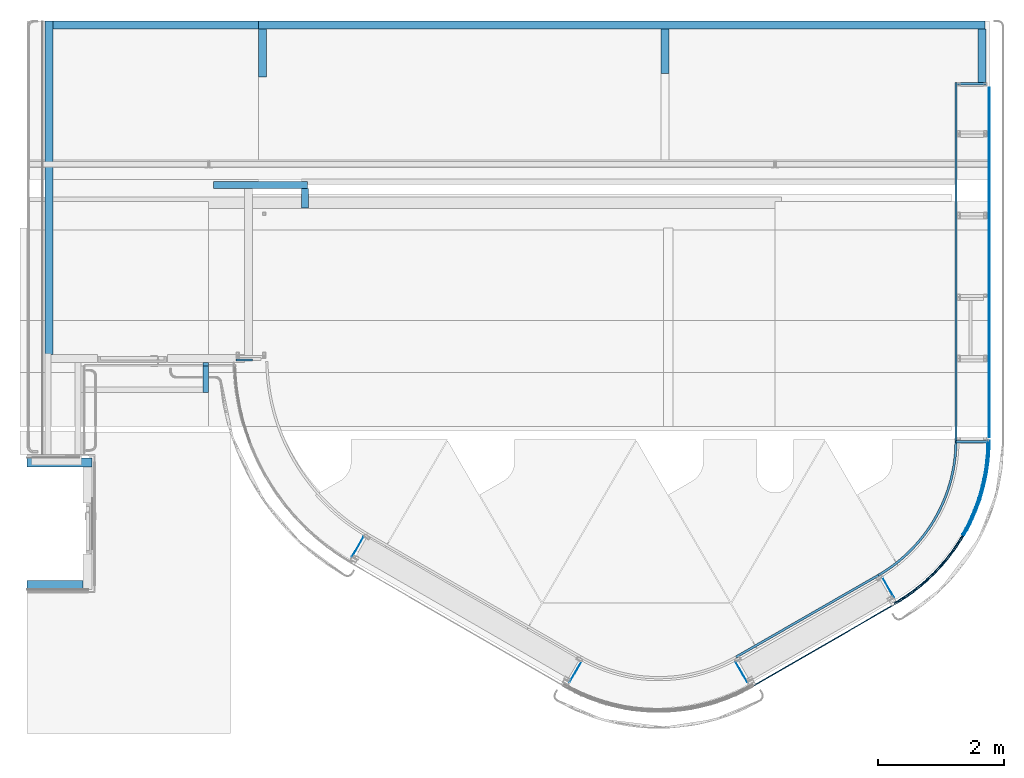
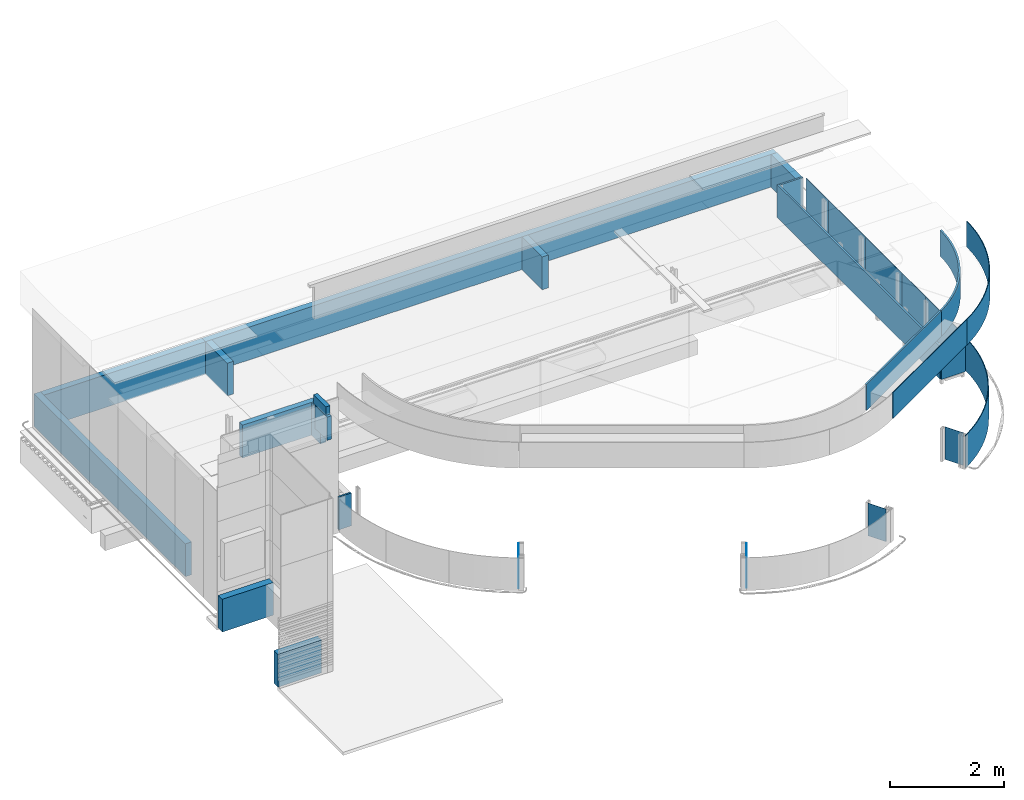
# One storey, part 11 of 18: 32 walls.
"""IFC2X3 building model written with IfcOpenShell, lengths in millimetres."""

from ifc_helpers import new_model, entity, si_unit, converted_unit, derived_unit, direction, frame, frame_2d, origin, origin_with_axes, origin_2d_with_axis, place, context, subcontext, project, spatial, polyline, circle_curve, parameter, trimmed, segment, composite_curve, rectangle, outline, extrude, clip, halfspace, faceted_brep, material, layer, layer_set, layer_usage, type_object, element, save


model = new_model("IFC2X3")

# Units and contexts
model_context = context("Model", 3, precision=0.01, world=frame((0.0, 4.29681676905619e-09, 0.0)), true_north=direction((4.01073788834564e-13, 1.0)))
plan_context = context("Plan", 3, precision=0.01, world=frame((0.0, 4.29681676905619e-09, 0.0)), true_north=direction((4.01073788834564e-13, 1.0)))
body_context = subcontext(model_context, "Body", "Model", "MODEL_VIEW")
ifc_project = project(units=[converted_unit("PLANEANGLEUNIT", "DEGREE", entity("IfcPositiveLengthMeasure", 0.0174532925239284), si_unit("PLANEANGLEUNIT", "RADIAN"), dimensions=[0, 0, 0, 0, 0, 0, 0]), si_unit("AREAUNIT", "SQUARE_METRE"), si_unit("LENGTHUNIT", "METRE", prefix="MILLI"), si_unit("MASSUNIT", "GRAM", prefix="KILO"), si_unit("POWERUNIT", "WATT"), si_unit("PRESSUREUNIT", "PASCAL"), si_unit("FORCEUNIT", "NEWTON", prefix="KILO"), si_unit("ELECTRICVOLTAGEUNIT", "VOLT"), si_unit("ELECTRICCURRENTUNIT", "AMPERE"), si_unit("THERMODYNAMICTEMPERATUREUNIT", "DEGREE_CELSIUS"), si_unit("TIMEUNIT", "SECOND"), si_unit("VOLUMEUNIT", "CUBIC_METRE"), derived_unit("LINEARVELOCITYUNIT", [(si_unit("LENGTHUNIT", "METRE"), 1), (si_unit("TIMEUNIT", "SECOND"), -1)]), derived_unit("VOLUMETRICFLOWRATEUNIT", [(si_unit("VOLUMEUNIT", "CUBIC_METRE"), 1), (si_unit("TIMEUNIT", "SECOND"), -1)]), derived_unit("THERMALTRANSMITTANCEUNIT", [(si_unit("POWERUNIT", "WATT"), 1), (si_unit("THERMODYNAMICTEMPERATUREUNIT", "KELVIN"), -1), (si_unit("AREAUNIT", "SQUARE_METRE"), -1)]), derived_unit("SOUNDPRESSUREUNIT", [(si_unit("PRESSUREUNIT", "PASCAL"), 1)])], contexts=[model_context, plan_context])

# Site, building, storey
site_placement = place(None, origin_with_axes())
site = spatial("IfcSite", under=ifc_project, at=site_placement, Name="ENGM", CompositionType="ELEMENT")
building_placement = place(site_placement, origin_with_axes())
building = spatial("IfcBuilding", under=site, at=building_placement, Name="TH", CompositionType="ELEMENT")
storey_placement = place(building_placement, frame((0.0, 0.0, 210200.0), z_axis=(0.0, 0.0, 1.0), x_axis=(1.0, 0.0, 0.0)))
storey = spatial("IfcBuildingStorey", under=building, at=storey_placement, Name="Nivå F - 0,7 m", CompositionType="ELEMENT", Elevation=210200.0)

# Walls
ifc_material_1 = material(Name="T2_Gips Protect F")
ifc_layer_1 = layer(ifc_material_1, 15.0)
ifc_material_2 = material(Name="T2_Gips Standard")
ifc_layer_2 = layer(ifc_material_2, 12.5)
ifc_material_3 = material(Name="_NSW Stålstender, uisolert")
ifc_layer_3 = layer(ifc_material_3, 100.0)
ifc_layer_4 = layer(ifc_material_1, 15.0)
ifc_layer_set_1 = layer_set([ifc_layer_1, ifc_layer_2, ifc_layer_3, ifc_layer_4], Name="Basic Wall:A241 - FSVF-100 (100/100 ps-p)")
wall_type_1 = type_object("IfcWallType", Name="Basic Wall:A241 - FSVF-100 (100/100 ps-p)", PredefinedType="STANDARD", material=ifc_layer_set_1)
wall_1_placement = place(storey_placement, frame((893845.250000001, 480342.499999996, 0.0), z_axis=(0.0, 0.0, 1.0), x_axis=(1.0, 0.0, 0.0)))
element("IfcWall", 1, at=wall_1_placement, inside=storey, type_object=wall_type_1, Name="Basic Wall:A241 - FSVF-100 (100/100 ps-p)", ObjectType="Basic Wall:A241 - FSVF-100 (100/100 ps-p)", context=body_context, shape_type="Brep", body=[
    faceted_brep([(1266.65616856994, -71.2500000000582, 0.0), (1266.65616856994, -71.2500000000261, 700.0), (2297.2499999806, -71.25, 700.0), (2297.2499999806, -71.25, 0.0), (1266.65616856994, 71.2499999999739, 700.0), (1266.65616856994, 71.2499999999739, 0.0), (2297.24999998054, 71.25, 0.0), (2297.24999998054, 71.25, 700.0)], [[[0, 1, 2, 3]], [[4, 5, 6, 7]], [[5, 0, 3, 6]], [[2, 7, 6, 3]], [[1, 4, 7, 2]], [[5, 4, 1, 0]]], orient=[[False], [False], [False], [False], [False], [False]]),
])
wall_2_placement = place(storey_placement, frame((895999.99999998, 478397.499999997, 0.0), z_axis=(0.0, 0.0, 1.0), x_axis=(-1.0, 0.0, 0.0)))
element("IfcWall", 2, at=wall_2_placement, inside=storey, type_object=wall_type_1, Name="Basic Wall:A241 - FSVF-100 (100/100 ps-p)", ObjectType="Basic Wall:A241 - FSVF-100 (100/100 ps-p)", context=body_context, shape_type="Brep", body=[
    faceted_brep([(888.093831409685, 71.2499999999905, 0.0), (888.093831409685, 71.2499999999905, 700.000000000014), (0.0, 71.2499999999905, 700.000000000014), (0.0, 71.2499999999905, 0.0), (0.0, -71.2500000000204, 700.000000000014), (0.0, -71.2500000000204, 0.0), (888.093831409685, -71.2500000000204, 700.000000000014), (888.093831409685, -71.2500000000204, 0.0)], [[[0, 1, 2, 3]], [[3, 2, 4, 5]], [[6, 7, 5, 4]], [[7, 0, 3, 5]], [[1, 6, 4, 2]], [[7, 6, 1, 0]]], orient=[[False], [False], [False], [False], [False], [False]]),
])
ifc_material_4 = material(Name="Glass(Avinor)")
ifc_layer_5 = layer(ifc_material_4, 14.0)
ifc_layer_set_2 = layer_set([ifc_layer_5], Name="Basic Wall:A242 - IGV Glass 14mm")
ifc_layer_usage_1 = layer_usage(ifc_layer_set_2, "AXIS2", "POSITIVE", -7.0)
wall_type_2 = type_object("IfcWallType", Name="Basic Wall:A242 - IGV Glass 14mm", PredefinedType="STANDARD", material=ifc_layer_set_2)
wall_3_placement = place(storey_placement, frame((910384.985262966, 480690.397378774, 0.0), z_axis=(0.0, 0.0, 1.0), x_axis=(1.0, 0.0, 0.0)))
element("IfcWallStandardCase", 3, at=wall_3_placement, inside=storey, type_object=wall_type_2, material=ifc_layer_usage_1, Name="Basic Wall:A242 - IGV Glass 14mm", ObjectType="Basic Wall:A242 - IGV Glass 14mm", context=body_context, shape_type="Clipping", body=[
    clip(extrude(outline(composite_curve([segment(trimmed(circle_curve(frame_2d((-2985.0, -0.00709854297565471), x_axis=(1.0, 0.0)), 2992.0), [parameter(330.002379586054)], [parameter(0.000136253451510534)], True, "PARAMETER"), True, "CONTINUOUS"), segment(polyline([(7.0, 1.66464918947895e-05), (-7.0, -1.66464918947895e-05)]), True, "CONTINUOUS"), segment(trimmed(circle_curve(frame_2d((-2985.0, -0.00709854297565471), x_axis=(1.0, 0.0)), 2978.0), [parameter(330.002379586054)], [parameter(0.000136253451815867)], True, "PARAMETER"), False, "CONTINUOUS"), segment(polyline([(-405.914509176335, -1488.89998625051), (-393.789862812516, -1495.89948270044)]), True, "CONTINUOUS")], self_intersect=False)), origin(), (0.0, 0.0, 1.0), 700.000000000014), halfspace(origin(), True)),
])
ifc_layer_usage_2 = layer_usage(ifc_layer_set_2, "AXIS2", "POSITIVE", -7.0)
wall_4_placement = place(storey_placement, frame((909985.133076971, 479197.997644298, 0.0), z_axis=(0.0, 0.0, 1.0), x_axis=(1.0, 0.0, 0.0)))
element("IfcWallStandardCase", 4, at=wall_4_placement, inside=storey, type_object=wall_type_2, material=ifc_layer_usage_2, Name="Basic Wall:A242 - IGV Glass 14mm", ObjectType="Basic Wall:A242 - IGV Glass 14mm", context=body_context, shape_type="Clipping", body=[
    clip(extrude(outline(composite_curve([segment(trimmed(circle_curve(frame_2d((-2585.14781399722, 1492.3926359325), x_axis=(1.0, 0.0)), 2992.0), [parameter(300.000323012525)], [parameter(330.002379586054)], True, "PARAMETER"), True, "CONTINUOUS"), segment(polyline([(6.06232318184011, -3.4997482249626), (-6.06232318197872, 3.4997482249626)]), True, "CONTINUOUS"), segment(trimmed(circle_curve(frame_2d((-2585.14781399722, 1492.3926359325), x_axis=(1.0, 0.0)), 2978.0), [parameter(300.000323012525)], [parameter(330.002379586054)], True, "PARAMETER"), False, "CONTINUOUS"), segment(polyline([(-1096.13327443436, -1086.62262206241), (-1089.13320608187, -1098.74693825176)]), True, "CONTINUOUS")], self_intersect=False)), origin(), (0.0, 0.0, 1.0), 700.000000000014), halfspace(origin(), True)),
])
ifc_material_5 = material(Name="Kledning")
ifc_layer_6 = layer(ifc_material_5, 14.0)
ifc_layer_set_3 = layer_set([ifc_layer_6], Name="Basic Wall:A242 - IGV Glass Opal 14mm")
ifc_layer_usage_3 = layer_usage(ifc_layer_set_3, "AXIS2", "NEGATIVE", 7.0)
wall_type_3 = type_object("IfcWallType", Name="Basic Wall:A242 - IGV Glass Opal 14mm", PredefinedType="STANDARD", material=ifc_layer_set_3)
wall_5_placement = place(storey_placement, frame((910403.5848418, 480739.436894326, 0.0), z_axis=(0.0, 0.0, 1.0), x_axis=(0.0, 1.0, 0.0)))
element("IfcWallStandardCase", 5, at=wall_5_placement, inside=storey, type_object=wall_type_3, material=ifc_layer_usage_3, Name="Basic Wall:A242 - IGV Glass Opal 14mm", ObjectType="Basic Wall:A242 - IGV Glass Opal 14mm", context=body_context, shape_type="Clipping", body=[
    clip(extrude(rectangle(XDim=1371.86310576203, YDim=13.9999999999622, at=frame_2d((685.931552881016, 0.0), x_axis=(-1.0, 0.0))), origin(), (0.0, 0.0, 1.0), 700.000000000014), halfspace(origin(), True)),
])
ifc_layer_usage_4 = layer_usage(ifc_layer_set_3, "AXIS2", "NEGATIVE", 7.0)
wall_6_placement = place(storey_placement, frame((910403.584841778, 484210.393078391, 0.0), z_axis=(0.0, 0.0, 1.0), x_axis=(0.0, 1.0, 0.0)))
element("IfcWallStandardCase", 6, at=wall_6_placement, inside=storey, type_object=wall_type_3, material=ifc_layer_usage_4, Name="Basic Wall:A242 - IGV Glass Opal 14mm", ObjectType="Basic Wall:A242 - IGV Glass Opal 14mm", context=body_context, shape_type="SweptSolid", body=[
    extrude(rectangle(XDim=13.9999999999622, YDim=1292.00000000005, at=frame_2d((0.0, -6.9292127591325e-11), x_axis=(1.0, 0.0))), frame((646.0, 0.0, 0.0), z_axis=(0.0, 0.0, 1.0), x_axis=(0.0, 1.0, 0.0)), (0.0, 0.0, 1.0), 700.000000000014),
])
ifc_layer_usage_5 = layer_usage(ifc_layer_set_3, "AXIS2", "NEGATIVE", 7.0)
wall_7_placement = place(storey_placement, frame((910403.584841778, 485506.393078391, 0.0), z_axis=(0.0, 0.0, 1.0), x_axis=(0.0, 1.0, 0.0)))
element("IfcWallStandardCase", 7, at=wall_7_placement, inside=storey, type_object=wall_type_3, material=ifc_layer_usage_5, Name="Basic Wall:A242 - IGV Glass Opal 14mm", ObjectType="Basic Wall:A242 - IGV Glass Opal 14mm", context=body_context, shape_type="Clipping", body=[
    clip(extrude(rectangle(XDim=790.305854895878, YDim=13.9999999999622, at=frame_2d((395.152927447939, 0.0), x_axis=(-1.0, 0.0))), origin(), (0.0, 0.0, 1.0), 700.000000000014), halfspace(origin(), True)),
])
ifc_layer_usage_6 = layer_usage(ifc_layer_set_3, "AXIS2", "POSITIVE", -7.0)
wall_8_placement = place(storey_placement, frame((910404.000000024, 482940.300000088, 0.0), z_axis=(0.0, 0.0, 1.0), x_axis=(0.0, 1.0, 0.0)))
element("IfcWallStandardCase", 8, at=wall_8_placement, inside=storey, type_object=wall_type_3, material=ifc_layer_usage_6, Name="Basic Wall:A242 - IGV Glass Opal 14mm", ObjectType="Basic Wall:A242 - IGV Glass Opal 14mm", context=body_context, shape_type="Clipping", body=[
    clip(extrude(rectangle(XDim=1301.99999999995, YDim=13.9999999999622, at=frame_2d((650.999999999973, 0.0), x_axis=(-1.0, 0.0))), origin(), (0.0, 0.0, 1.0), 700.000000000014), halfspace(origin(), True)),
])
ifc_layer_usage_7 = layer_usage(ifc_layer_set_3, "AXIS2", "NEGATIVE", 7.0)
wall_9_placement = place(storey_placement, frame((906659.073181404, 476792.223012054, 2635.0), z_axis=(0.0, 0.0, 1.0), x_axis=(0.866025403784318, 0.500000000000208, 0.0)))
element("IfcWallStandardCase", 9, at=wall_9_placement, inside=storey, type_object=wall_type_3, material=ifc_layer_usage_7, Name="Basic Wall:A242 - IGV Glass Opal 14mm", ObjectType="Basic Wall:A242 - IGV Glass Opal 14mm", context=body_context, shape_type="SweptSolid", body=[
    extrude(rectangle(XDim=2589.99999999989, YDim=13.9999999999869, at=frame_2d((1294.99999999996, 8.93551899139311e-12), x_axis=(-1.0, 0.0))), origin(), (0.0, 0.0, 1.0), 549.999999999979),
])
ifc_layer_usage_8 = layer_usage(ifc_layer_set_3, "AXIS2", "POSITIVE", -7.0)
wall_10_placement = place(storey_placement, frame((910406.985263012, 480690.397431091, 2635.0), z_axis=(0.0, 0.0, 1.0), x_axis=(1.0, 0.0, 0.0)))
element("IfcWallStandardCase", 10, at=wall_10_placement, inside=storey, type_object=wall_type_3, material=ifc_layer_usage_8, Name="Basic Wall:A242 - IGV Glass Opal 14mm", ObjectType="Basic Wall:A242 - IGV Glass Opal 14mm", context=body_context, shape_type="SweptSolid", body=[
    extrude(outline(composite_curve([segment(trimmed(circle_curve(frame_2d((-3007.0, -0.00715086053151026), x_axis=(1.0, 0.0)), 3014.00000004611), [parameter(330.002379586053)], [parameter(0.00013625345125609)], True, "PARAMETER"), True, "CONTINUOUS"), segment(polyline([(7.0, 1.66464918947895e-05), (-7.0, -1.66464918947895e-05)]), True, "CONTINUOUS"), segment(trimmed(circle_curve(frame_2d((-3007.0, -0.00715086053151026), x_axis=(1.0, 0.0)), 3000.00000004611), [parameter(330.002379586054)], [parameter(0.000136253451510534)], True, "PARAMETER"), False, "CONTINUOUS"), segment(polyline([(-408.861493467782, -1499.89924729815), (-396.736847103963, -1506.89874374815)]), True, "CONTINUOUS")], self_intersect=False)), origin(), (0.0, 0.0, 1.0), 549.999999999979),
])
ifc_layer_usage_9 = layer_usage(ifc_layer_set_3, "AXIS2", "POSITIVE", -7.0)
wall_11_placement = place(storey_placement, frame((910004.186092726, 479186.998435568, 2635.0), z_axis=(0.0, 0.0, 1.0), x_axis=(1.0, 0.0, 0.0)))
element("IfcWallStandardCase", 11, at=wall_11_placement, inside=storey, type_object=wall_type_3, material=ifc_layer_usage_9, Name="Basic Wall:A242 - IGV Glass Opal 14mm", ObjectType="Basic Wall:A242 - IGV Glass Opal 14mm", context=body_context, shape_type="SweptSolid", body=[
    extrude(outline(composite_curve([segment(trimmed(circle_curve(frame_2d((-2604.20082975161, 1503.39184466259), x_axis=(1.0, 0.0)), 3014.00000004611), [parameter(300.000323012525)], [parameter(330.002379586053)], True, "PARAMETER"), True, "CONTINUOUS"), segment(polyline([(6.06232318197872, -3.49974822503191), (-6.06232318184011, 3.4997482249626)]), True, "CONTINUOUS"), segment(trimmed(circle_curve(frame_2d((-2604.20082975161, 1503.39184466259), x_axis=(1.0, 0.0)), 3000.00000004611), [parameter(300.000323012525)], [parameter(330.002379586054)], True, "PARAMETER"), False, "CONTINUOUS"), segment(polyline([(-1104.18618275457, -1094.67591024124), (-1097.18611440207, -1106.80022643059)]), True, "CONTINUOUS")], self_intersect=False)), origin(), (0.0, 0.0, 1.0), 549.999999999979),
])
ifc_layer_usage_10 = layer_usage(ifc_layer_set_3, "AXIS2", "POSITIVE", -7.0)
wall_12_placement = place(storey_placement, frame((910404.000000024, 482111.300000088, 0.0), z_axis=(0.0, 0.0, 1.0), x_axis=(0.0, 1.0, 0.0)))
element("IfcWallStandardCase", 12, at=wall_12_placement, inside=storey, type_object=wall_type_3, material=ifc_layer_usage_10, Name="Basic Wall:A242 - IGV Glass Opal 14mm", ObjectType="Basic Wall:A242 - IGV Glass Opal 14mm", context=body_context, shape_type="SweptSolid", body=[
    extrude(rectangle(XDim=13.9999999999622, YDim=829.000000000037, at=origin_2d_with_axis()), frame((414.500000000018, 0.0, 0.0), z_axis=(0.0, 0.0, 1.0), x_axis=(0.0, 1.0, 0.0)), (0.0, 0.0, 1.0), 700.000000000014),
])
ifc_layer_7 = layer(ifc_material_1, 12.5)
ifc_material_6 = material(Name="T2_X-finer")
ifc_layer_8 = layer(ifc_material_6, 12.0)
ifc_layer_9 = layer(ifc_material_6, 12.0)
ifc_layer_set_4 = layer_set([ifc_layer_7, ifc_layer_8, ifc_layer_9], Name="Basic Wall:A241 - FFS")
ifc_layer_usage_11 = layer_usage(ifc_layer_set_4, "AXIS2", "NEGATIVE", 18.25)
wall_type_4 = type_object("IfcWallType", Name="Basic Wall:A241 - FFS", PredefinedType="STANDARD", material=ifc_layer_set_4)
wall_13_placement = place(storey_placement, frame((909876.749999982, 480675.013105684, 0.0), z_axis=(0.0, 0.0, 1.0), x_axis=(0.0, 1.0, 0.0)))
element("IfcWallStandardCase", 13, at=wall_13_placement, inside=storey, type_object=wall_type_4, material=ifc_layer_usage_11, Name="Basic Wall:A241 - FFS", ObjectType="Basic Wall:A241 - FFS", context=body_context, shape_type="SweptSolid", body=[
    extrude(rectangle(XDim=5705.00000000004, YDim=36.5000000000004, at=frame_2d((-563.200000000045, 3.64999999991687), x_axis=(1.0, 0.0))), frame((3415.70000000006, -3.64999999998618, 0.0)), (0.0, 0.0, 1.0), 700.000000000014),
])
ifc_layer_usage_12 = layer_usage(ifc_layer_set_4, "AXIS2", "NEGATIVE", 18.25)
wall_14_placement = place(storey_placement, frame((910365.000000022, 480671.186894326, 0.0), z_axis=(0.0, 0.0, 1.0), x_axis=(-1.0, 0.0, 0.0)))
element("IfcWallStandardCase", 14, at=wall_14_placement, inside=storey, type_object=wall_type_4, material=ifc_layer_usage_12, Name="Basic Wall:A241 - FFS", ObjectType="Basic Wall:A241 - FFS", context=body_context, shape_type="Clipping", body=[
    clip(extrude(rectangle(XDim=488.601762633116, YDim=36.5000000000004, at=frame_2d((244.300881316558, 0.0), x_axis=(-1.0, 0.0))), origin(), (0.0, 0.0, 1.0), 700.000000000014), halfspace(origin(), True)),
])
ifc_layer_usage_13 = layer_usage(ifc_layer_set_4, "AXIS2", "POSITIVE", -18.25)
wall_15_placement = place(storey_placement, frame((898434.999999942, 481971.186894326, 0.0), z_axis=(0.0, 0.0, 1.0), x_axis=(1.0, 0.0, 0.0)))
element("IfcWallStandardCase", 15, at=wall_15_placement, inside=storey, type_object=wall_type_4, material=ifc_layer_usage_13, Name="Basic Wall:A241 - FFS", ObjectType="Basic Wall:A241 - FFS", context=body_context, shape_type="Clipping", body=[
    clip(extrude(rectangle(XDim=257.141536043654, YDim=36.5000000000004, at=frame_2d((128.570768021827, 0.0), x_axis=(-1.0, 0.0))), origin(), (0.0, 0.0, 1.0), 700.000000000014), halfspace(origin(), True)),
])
ifc_layer_usage_14 = layer_usage(ifc_layer_set_4, "AXIS2", "POSITIVE", -18.25)
wall_16_placement = place(storey_placement, frame((910365.000000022, 486361.763105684, 0.0), z_axis=(0.0, 0.0, 1.0), x_axis=(-1.0, 0.0, 0.0)))
element("IfcWallStandardCase", 16, at=wall_16_placement, inside=storey, type_object=wall_type_4, material=ifc_layer_usage_14, Name="Basic Wall:A241 - FFS", ObjectType="Basic Wall:A241 - FFS", context=body_context, shape_type="Clipping", body=[
    clip(extrude(rectangle(XDim=470.00000004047, YDim=36.5000000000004, at=frame_2d((235.000000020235, 0.0), x_axis=(-1.0, 0.0))), origin(), (0.0, 0.0, 1.0), 700.000000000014), halfspace(origin(), True)),
])
ifc_layer_usage_15 = layer_usage(ifc_layer_set_4, "AXIS2", "NEGATIVE", 18.25)
wall_17_placement = place(storey_placement, frame((908642.09835, 478547.624394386, 2635.0), z_axis=(0.0, 0.0, 1.0), x_axis=(0.939692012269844, 0.342021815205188, 0.0)))
element("IfcWallStandardCase", 17, at=wall_17_placement, inside=storey, type_object=wall_type_4, material=ifc_layer_usage_15, Name="Basic Wall:A241 - FFS", ObjectType="Basic Wall:A241 - FFS", context=body_context, shape_type="SweptSolid", body=[
    extrude(outline(composite_curve([segment(trimmed(circle_curve(frame_2d((-434.331068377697, 2438.36975980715), x_axis=(1.0, 0.0)), 2458.5), [parameter(280.101547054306)], [parameter(339.740505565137)], True, "PARAMETER"), False, "CONTINUOUS"), segment(polyline([(-3.12661872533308, 17.9803339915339), (3.20038033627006, -17.9671941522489)]), True, "CONTINUOUS"), segment(trimmed(circle_curve(frame_2d((-434.331068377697, 2438.36975980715), x_axis=(1.0, 0.0)), 2495.0), [parameter(280.099800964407)], [parameter(339.740505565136)], True, "PARAMETER"), True, "CONTINUOUS"), segment(polyline([(1906.31318247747, 1574.41982437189), (1872.07129263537, 1587.05877132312)]), True, "CONTINUOUS")], self_intersect=False)), origin(), (0.0, 0.0, 1.0), 549.999999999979),
])
ifc_layer_usage_16 = layer_usage(ifc_layer_set_4, "AXIS2", "NEGATIVE", 18.25)
wall_18_placement = place(storey_placement, frame((906381.899482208, 477249.851372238, 2635.0), z_axis=(0.0, 0.0, 1.0), x_axis=(0.867211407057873, 0.497940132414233, 0.0)))
element("IfcWallStandardCase", 18, at=wall_18_placement, inside=storey, type_object=wall_type_4, material=ifc_layer_usage_16, Name="Basic Wall:A241 - FFS", ObjectType="Basic Wall:A241 - FFS", context=body_context, shape_type="SweptSolid", body=[
    extrude(outline(polyline([(2606.35871043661, -18.2500000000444), (2606.28323348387, 18.2500000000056), (0.0, 18.2499999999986), (0.0, -18.2500000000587), (2606.35871043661, -18.2500000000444)])), origin(), (0.0, 0.0, 1.0), 549.999999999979),
])
ifc_material_7 = material(Name="T2 Stål Galvanisert")
ifc_layer_10 = layer(ifc_material_7, 5.0)
ifc_layer_set_5 = layer_set([ifc_layer_10], Name="Basic Wall:A245 - MP-5 Metallplate 5mm")
ifc_layer_usage_17 = layer_usage(ifc_layer_set_5, "AXIS2", "POSITIVE", -2.5)
wall_type_5 = type_object("IfcWallType", Name="Basic Wall:A245 - MP-5 Metallplate 5mm", PredefinedType="STANDARD", material=ifc_layer_set_5)
wall_19_placement = place(storey_placement, frame((908896.591993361, 478188.530285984, 0.0), z_axis=(0.0, 0.0, 1.0), x_axis=(-0.50000000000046, 0.866025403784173, 0.0)))
element("IfcWallStandardCase", 19, at=wall_19_placement, inside=storey, type_object=wall_type_5, material=ifc_layer_usage_17, Name="Basic Wall:A245 - MP-5 Metallplate 5mm", ObjectType="Basic Wall:A245 - MP-5 Metallplate 5mm", context=body_context, shape_type="Clipping", body=[
    clip(extrude(rectangle(XDim=369.997631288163, YDim=5.00000000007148, at=frame_2d((184.998815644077, -7.7333472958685e-11), x_axis=(-1.0, 0.0))), origin(), (0.0, 0.0, 1.0), 700.000000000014), halfspace(origin(), True)),
])
ifc_layer_usage_18 = layer_usage(ifc_layer_set_5, "AXIS2", "NEGATIVE", 2.5)
wall_20_placement = place(storey_placement, frame((906561.298267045, 476847.37767056, 0.0), z_axis=(0.0, 0.0, 1.0), x_axis=(-0.500000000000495, 0.866025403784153, 0.0)))
element("IfcWallStandardCase", 20, at=wall_20_placement, inside=storey, type_object=wall_type_5, material=ifc_layer_usage_18, Name="Basic Wall:A245 - MP-5 Metallplate 5mm", ObjectType="Basic Wall:A245 - MP-5 Metallplate 5mm", context=body_context, shape_type="Clipping", body=[
    clip(extrude(rectangle(XDim=369.997631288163, YDim=5.00000000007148, at=frame_2d((184.998815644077, -7.7333472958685e-11), x_axis=(-1.0, 0.0))), origin(), (0.0, 0.0, 1.0), 700.000000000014), halfspace(origin(), True)),
])
ifc_layer_usage_19 = layer_usage(ifc_layer_set_5, "AXIS2", "POSITIVE", -2.5)
wall_21_placement = place(storey_placement, frame((903734.915502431, 476847.976300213, 0.0), z_axis=(0.0, 0.0, 1.0), x_axis=(0.500000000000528, 0.866025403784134, 0.0)))
element("IfcWallStandardCase", 21, at=wall_21_placement, inside=storey, type_object=wall_type_5, material=ifc_layer_usage_19, Name="Basic Wall:A245 - MP-5 Metallplate 5mm", ObjectType="Basic Wall:A245 - MP-5 Metallplate 5mm", context=body_context, shape_type="Clipping", body=[
    clip(extrude(rectangle(XDim=369.997631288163, YDim=5.00000000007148, at=frame_2d((184.998815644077, -7.7333472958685e-11), x_axis=(-1.0, 0.0))), origin(), (0.0, 0.0, 1.0), 700.000000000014), halfspace(origin(), True)),
])
ifc_layer_usage_20 = layer_usage(ifc_layer_set_5, "AXIS2", "NEGATIVE", 2.5)
wall_22_placement = place(storey_placement, frame((900275.401569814, 478839.91679196, 0.0), z_axis=(0.0, 0.0, 1.0), x_axis=(0.500000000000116, 0.866025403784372, 0.0)))
element("IfcWallStandardCase", 22, at=wall_22_placement, inside=storey, type_object=wall_type_5, material=ifc_layer_usage_20, Name="Basic Wall:A245 - MP-5 Metallplate 5mm", ObjectType="Basic Wall:A245 - MP-5 Metallplate 5mm", context=body_context, shape_type="Clipping", body=[
    clip(extrude(rectangle(XDim=369.997631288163, YDim=5.00000000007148, at=frame_2d((184.998815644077, -7.7333472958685e-11), x_axis=(-1.0, 0.0))), origin(), (0.0, 0.0, 1.0), 700.000000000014), halfspace(origin(), True)),
])
ifc_material_8 = material(Name="Plate - Gips")
ifc_layer_11 = layer(ifc_material_8, 12.5)
ifc_material_9 = material(Name="_NSW X-finer")
ifc_layer_12 = layer(ifc_material_9, 12.5)
ifc_material_10 = material(Name="_NSW Isolasjon")
ifc_layer_13 = layer(ifc_material_10, 75.0)
ifc_layer_14 = layer(ifc_material_9, 12.5)
ifc_layer_15 = layer(ifc_material_8, 12.5)
ifc_layer_set_6 = layer_set([ifc_layer_11, ifc_layer_12, ifc_layer_13, ifc_layer_14, ifc_layer_15], Name="Basic Wall:A241 - SXVXS-75")
ifc_layer_usage_21 = layer_usage(ifc_layer_set_6, "AXIS2", "NEGATIVE", 62.5)
wall_type_6 = type_object("IfcWallType", Name="Basic Wall:A241 - SXVXS-75", PredefinedType="STANDARD", material=ifc_layer_set_6)
wall_23_placement = place(storey_placement, frame((898791.499999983, 487295.150000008, 0.0), z_axis=(0.0, 0.0, 1.0), x_axis=(1.0, 0.0, 0.0)))
element("IfcWallStandardCase", 23, at=wall_23_placement, inside=storey, type_object=wall_type_6, material=ifc_layer_usage_21, Name="Basic Wall:A241 - SXVXS-75", ObjectType="Basic Wall:A241 - SXVXS-75", context=body_context, shape_type="Clipping", body=[
    clip(extrude(rectangle(XDim=11550.0000000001, YDim=124.999999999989, at=frame_2d((5775.00000000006, 4.67572647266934e-11), x_axis=(-1.0, 0.0))), origin(), (0.0, 0.0, 1.0), 700.000000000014), halfspace(origin(), True)),
])
ifc_layer_usage_22 = layer_usage(ifc_layer_set_6, "AXIS2", "NEGATIVE", 62.5)
wall_24_placement = place(storey_placement, frame((910291.584841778, 487232.650000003, 0.0), z_axis=(0.0, 0.0, 1.0), x_axis=(0.0, -1.0, 0.0)))
element("IfcWallStandardCase", 24, at=wall_24_placement, inside=storey, type_object=wall_type_6, material=ifc_layer_usage_22, Name="Basic Wall:A241 - SXVXS-75", ObjectType="Basic Wall:A241 - SXVXS-75", context=body_context, shape_type="Clipping", body=[
    clip(extrude(rectangle(XDim=852.636894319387, YDim=125.000000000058, at=frame_2d((426.318447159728, 0.0), x_axis=(-1.0, 0.0))), origin(), (0.0, 0.0, 1.0), 700.000000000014), halfspace(origin(), True)),
])
ifc_layer_usage_23 = layer_usage(ifc_layer_set_6, "AXIS2", "POSITIVE", -62.5)
wall_25_placement = place(storey_placement, frame((898853.999999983, 487232.650000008, 0.0), z_axis=(0.0, 0.0, 1.0), x_axis=(0.0, -1.0, 0.0)))
element("IfcWallStandardCase", 25, at=wall_25_placement, inside=storey, type_object=wall_type_6, material=ifc_layer_usage_23, Name="Basic Wall:A241 - SXVXS-75", ObjectType="Basic Wall:A241 - SXVXS-75", context=body_context, shape_type="Clipping", body=[
    clip(extrude(rectangle(XDim=762.349048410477, YDim=125.000000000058, at=frame_2d((381.174524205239, 0.0), x_axis=(-1.0, 0.0))), origin(), (0.0, 0.0, 1.0), 700.000000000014), halfspace(origin(), True)),
])
ifc_layer_usage_24 = layer_usage(ifc_layer_set_6, "AXIS2", "NEGATIVE", 62.5)
wall_26_placement = place(storey_placement, frame((895458.750000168, 482058.701352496, 0.0), z_axis=(0.0, 0.0, 1.0), x_axis=(0.0, 1.0, 0.0)))
element("IfcWallStandardCase", 26, at=wall_26_placement, inside=storey, type_object=wall_type_6, material=ifc_layer_usage_24, Name="Basic Wall:A241 - SXVXS-75", ObjectType="Basic Wall:A241 - SXVXS-75", context=body_context, shape_type="Clipping", body=[
    clip(extrude(rectangle(XDim=5298.94864751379, YDim=125.000000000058, at=frame_2d((2649.4743237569, 0.0), x_axis=(-1.0, 0.0))), origin(), (0.0, 0.0, 1.0), 700.000000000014), halfspace(origin(), True)),
])
ifc_layer_usage_25 = layer_usage(ifc_layer_set_6, "AXIS2", "NEGATIVE", 62.5)
wall_27_placement = place(storey_placement, frame((895521.250000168, 487295.15000001, 0.0), z_axis=(0.0, 0.0, 1.0), x_axis=(1.0, 0.0, 0.0)))
element("IfcWallStandardCase", 27, at=wall_27_placement, inside=storey, type_object=wall_type_6, material=ifc_layer_usage_25, Name="Basic Wall:A241 - SXVXS-75", ObjectType="Basic Wall:A241 - SXVXS-75", context=body_context, shape_type="Clipping", body=[
    clip(extrude(rectangle(XDim=3270.24999981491, YDim=124.999999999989, at=frame_2d((1635.12499990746, 3.46496165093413e-11), x_axis=(-1.0, 0.0))), origin(), (0.0, 0.0, 1.0), 700.000000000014), halfspace(origin(), True)),
])
ifc_layer_usage_26 = layer_usage(ifc_layer_set_6, "AXIS2", "NEGATIVE", 62.5)
wall_28_placement = place(storey_placement, frame((905253.584841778, 487232.650000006, 0.0), z_axis=(0.0, 0.0, 1.0), x_axis=(0.0, -1.0, 0.0)))
element("IfcWallStandardCase", 28, at=wall_28_placement, inside=storey, type_object=wall_type_6, material=ifc_layer_usage_26, Name="Basic Wall:A241 - SXVXS-75", ObjectType="Basic Wall:A241 - SXVXS-75", context=body_context, shape_type="Clipping", body=[
    clip(extrude(rectangle(XDim=710.00000000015, YDim=125.000000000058, at=frame_2d((355.00000000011, 0.0), x_axis=(-1.0, 0.0))), origin(), (0.0, 0.0, 1.0), 700.000000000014), halfspace(origin(), True)),
])
ifc_layer_16 = layer(ifc_material_8, 12.5)
ifc_layer_17 = layer(ifc_material_3, 75.0)
ifc_layer_18 = layer(ifc_material_8, 12.5)
ifc_layer_19 = layer(ifc_material_8, 12.5)
ifc_layer_set_7 = layer_set([ifc_layer_16, ifc_layer_17, ifc_layer_18, ifc_layer_19], Name="Basic Wall:A241 - RVR-77 (75/75 r-rr)")
ifc_layer_usage_27 = layer_usage(ifc_layer_set_7, "AXIS2", "NEGATIVE", 56.25)
wall_type_7 = type_object("IfcWallType", Name="Basic Wall:A241 - RVR-77 (75/75 r-rr)", PredefinedType="STANDARD", material=ifc_layer_set_7)
wall_29_placement = place(storey_placement, frame((898074.999999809, 484753.061718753, 0.0), z_axis=(0.0, 0.0, 1.0), x_axis=(1.0, 0.0, 0.0)))
element("IfcWallStandardCase", 29, at=wall_29_placement, inside=storey, type_object=wall_type_7, material=ifc_layer_usage_27, Name="Basic Wall:A241 - RVR-77 (75/75 r-rr)", ObjectType="Basic Wall:A241 - RVR-77 (75/75 r-rr)", context=body_context, shape_type="Clipping", body=[
    clip(extrude(rectangle(XDim=1492.14153617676, YDim=112.499999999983, at=frame_2d((746.070768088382, 3.46531692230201e-11), x_axis=(-1.0, 0.0))), origin(), (0.0, 0.0, 1.0), 700.000000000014), halfspace(origin(), True)),
])
ifc_layer_usage_28 = layer_usage(ifc_layer_set_7, "AXIS2", "NEGATIVE", 56.25)
wall_30_placement = place(storey_placement, frame((899529.249609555, 484388.405859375, 0.0), z_axis=(0.0, 0.0, 1.0), x_axis=(0.0, 1.0, 0.0)))
element("IfcWallStandardCase", 30, at=wall_30_placement, inside=storey, type_object=wall_type_7, material=ifc_layer_usage_28, Name="Basic Wall:A241 - RVR-77 (75/75 r-rr)", ObjectType="Basic Wall:A241 - RVR-77 (75/75 r-rr)", context=body_context, shape_type="SweptSolid", body=[
    extrude(rectangle(XDim=112.500000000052, YDim=308.405859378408, at=frame_2d((7.57838528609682, 30.8405859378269), x_axis=(1.0, 0.0))), frame((185.043515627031, -7.57838528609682, 0.0), z_axis=(0.0, 0.0, 1.0), x_axis=(0.0, 1.0, 0.0)), (0.0, 0.0, 1.0), 700.000000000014),
])
ifc_layer_20 = layer(ifc_material_8, 12.5)
ifc_layer_21 = layer(ifc_material_3, 75.0)
ifc_layer_set_8 = layer_set([ifc_layer_20, ifc_layer_21], Name="Basic Wall:A241 - Skjørt (SV-75 S) 3")
ifc_layer_usage_29 = layer_usage(ifc_layer_set_8, "AXIS2", "NEGATIVE", 43.75)
wall_type_8 = type_object("IfcWallType", Name="Basic Wall:A241 - Skjørt (SV-75 S) 3", PredefinedType="STANDARD", material=ifc_layer_set_8)
wall_31_placement = place(storey_placement, frame((897956.250000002, 481933.701352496, 2910.0), z_axis=(0.0, 0.0, 1.0), x_axis=(0.0, -1.0, 0.0)))
element("IfcWallStandardCase", 31, at=wall_31_placement, inside=storey, type_object=wall_type_8, material=ifc_layer_usage_29, Name="Basic Wall:A241 - Skjørt (SV-75 S) 3", ObjectType="Basic Wall:A241 - Skjørt (SV-75 S) 3", context=body_context, shape_type="SweptSolid", body=[
    extrude(rectangle(XDim=437.499999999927, YDim=87.5000000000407, at=frame_2d((218.749999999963, 0.0), x_axis=(-1.0, 0.0))), origin(), (0.0, 0.0, 1.0), 179.000000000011),
])
ifc_layer_usage_30 = layer_usage(ifc_layer_set_8, "AXIS2", "NEGATIVE", 43.75)
wall_32_placement = place(storey_placement, frame((897956.250000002, 481877.701352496, 2400.0), z_axis=(0.0, 0.0, 1.0), x_axis=(0.0, -1.0, 0.0)))
element("IfcWallStandardCase", 32, at=wall_32_placement, inside=storey, type_object=wall_type_8, material=ifc_layer_usage_30, Name="Basic Wall:A241 - Skjørt (SV-75 S) 3", ObjectType="Basic Wall:A241 - Skjørt (SV-75 S) 3", context=body_context, shape_type="SweptSolid", body=[
    extrude(rectangle(XDim=427.696977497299, YDim=87.5000000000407, at=frame_2d((213.84848874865, 0.0), x_axis=(-1.0, 0.0))), origin(), (0.0, 0.0, 1.0), 499.999999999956),
])

save(model, "model.ifc")
